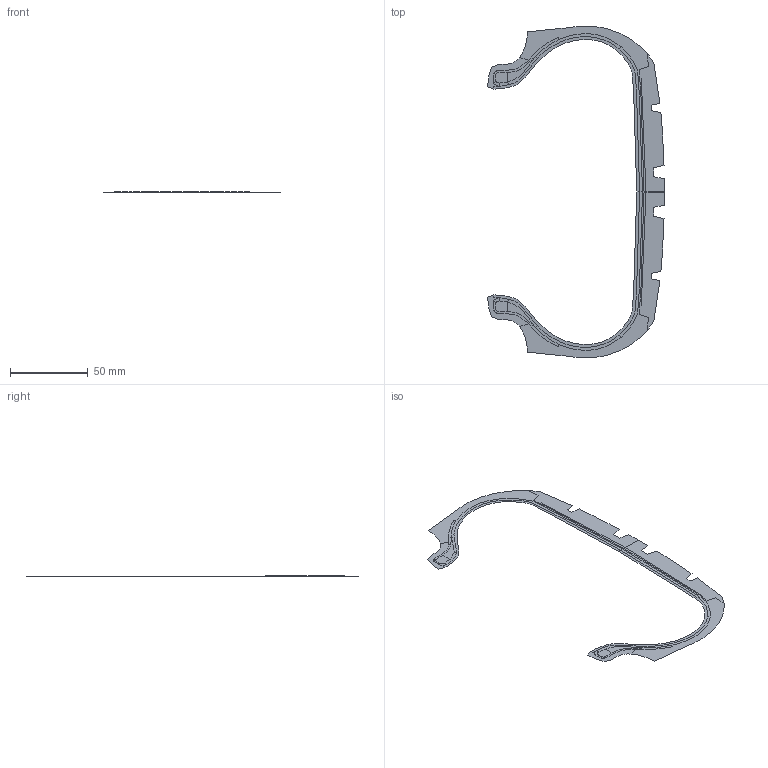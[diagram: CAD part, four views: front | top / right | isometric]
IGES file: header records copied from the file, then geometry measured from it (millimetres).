
Start section:  File: E:\Latest_Work\ALE_Testing\Tech_Demo_Problem\Input_Files\G /COM,ANSYS RELEASE 2019 R1           BUILD 19.3BETA  UP20181008       12 /NOPR /PREP7 /TITLE, File: E:\Latest_Work\ALE_Testing\Tech_Demo_Problem\Input_Files\G DOF,UX,UY,ROTY, *SET,A1,0.2500000000000E-06 *SET,M1,9.000000000000 *SET,S1,0.1400000000000E-02 *SET,_BUTTON,0.000000000000 *SET,_ET_TYPE,3.000000000000 *SET,_GUI_CLR_BG,'syste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
Global section: file name: 2d_tire_geometry.iges; native system: ANSYS; preprocessor:   19.3BETA  UP20181008; date: 001016.121320; units: metre
Bounding box: 113.96 x 213.94 x 0 mm (x, y, z)
Surface area: 5419.6 mm2 (no closed solid volume)
Topology: 0 solids, 0 shells, 38 faces, 342 edges, 355 vertices
Faces by surface type: bspline 38
